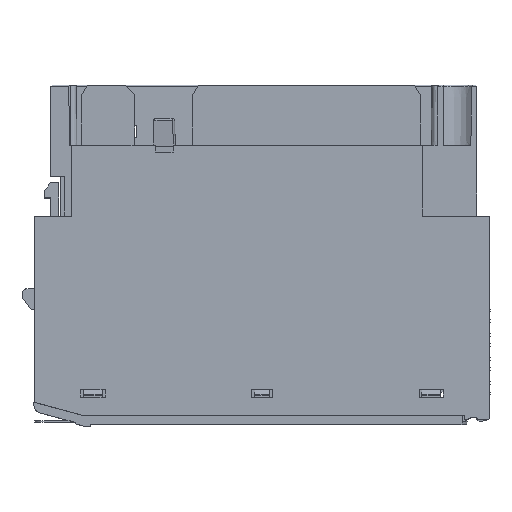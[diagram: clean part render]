
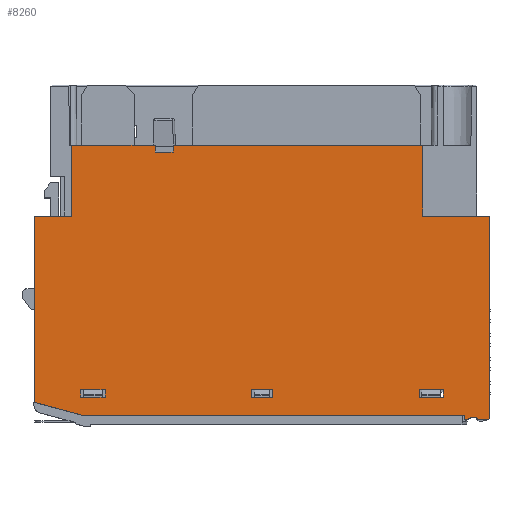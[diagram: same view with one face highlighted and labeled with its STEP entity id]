
A CAD part, top view. The second image highlights one B-rep face of the part: STEP entity #8260.
In plain terms, the highlighted planar face has unit normal (0, 0, 1).
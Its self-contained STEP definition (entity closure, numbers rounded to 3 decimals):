
#220=DIRECTION('',(0.,-1.,0.));
#221=VECTOR('',#220,1.25);
#222=CARTESIAN_POINT('',(-26.,4.25,6.));
#223=LINE('',#222,#221);
#224=DIRECTION('',(1.,0.,0.));
#225=VECTOR('',#224,4.);
#226=CARTESIAN_POINT('',(-30.,4.25,6.));
#227=LINE('',#226,#225);
#228=DIRECTION('',(0.,1.,0.));
#229=VECTOR('',#228,1.25);
#230=CARTESIAN_POINT('',(-30.,3.,6.));
#231=LINE('',#230,#229);
#232=DIRECTION('',(-1.,0.,0.));
#233=VECTOR('',#232,4.);
#234=CARTESIAN_POINT('',(-26.,3.,6.));
#235=LINE('',#234,#233);
#236=DIRECTION('',(0.,-1.,0.));
#237=VECTOR('',#236,1.25);
#238=CARTESIAN_POINT('',(30.,4.25,6.));
#239=LINE('',#238,#237);
#240=DIRECTION('',(1.,0.,0.));
#241=VECTOR('',#240,4.);
#242=CARTESIAN_POINT('',(26.,4.25,6.));
#243=LINE('',#242,#241);
#244=DIRECTION('',(0.,1.,0.));
#245=VECTOR('',#244,1.25);
#246=CARTESIAN_POINT('',(26.,3.,6.));
#247=LINE('',#246,#245);
#248=DIRECTION('',(-1.,0.,0.));
#249=VECTOR('',#248,4.);
#250=CARTESIAN_POINT('',(30.,3.,6.));
#251=LINE('',#250,#249);
#252=DIRECTION('',(0.,-1.,0.));
#253=VECTOR('',#252,1.25);
#254=CARTESIAN_POINT('',(1.75,4.25,6.));
#255=LINE('',#254,#253);
#256=DIRECTION('',(1.,0.,0.));
#257=VECTOR('',#256,3.5);
#258=CARTESIAN_POINT('',(-1.75,4.25,6.));
#259=LINE('',#258,#257);
#260=DIRECTION('',(0.,1.,0.));
#261=VECTOR('',#260,1.25);
#262=CARTESIAN_POINT('',(-1.75,3.,6.));
#263=LINE('',#262,#261);
#264=DIRECTION('',(-1.,0.,0.));
#265=VECTOR('',#264,3.5);
#266=CARTESIAN_POINT('',(1.75,3.,6.));
#267=LINE('',#266,#265);
#268=CARTESIAN_POINT('',(37.25,-0.25,6.));
#269=DIRECTION('',(0.,0.,-1.));
#270=DIRECTION('',(1.,0.,0.));
#271=AXIS2_PLACEMENT_3D('',#268,#269,#270);
#273=DIRECTION('',(-1.,0.,0.));
#274=VECTOR('',#273,1.395);
#275=CARTESIAN_POINT('',(37.25,-0.75,6.));
#276=LINE('',#275,#274);
#277=CARTESIAN_POINT('',(35.02,-1.3,6.));
#278=DIRECTION('',(0.,0.,1.));
#279=DIRECTION('',(0.835,0.55,0.));
#280=AXIS2_PLACEMENT_3D('',#277,#278,#279);
#282=DIRECTION('',(-0.891,-0.454,0.));
#283=VECTOR('',#282,0.751);
#284=CARTESIAN_POINT('',(34.566,-0.409,6.));
#285=LINE('',#284,#283);
#286=DIRECTION('',(-1.,0.,0.));
#287=VECTOR('',#286,0.397);
#288=CARTESIAN_POINT('',(33.897,-0.75,6.));
#289=LINE('',#288,#287);
#290=DIRECTION('',(0.,1.,0.));
#291=VECTOR('',#290,0.75);
#292=CARTESIAN_POINT('',(33.5,-0.75,6.));
#293=LINE('',#292,#291);
#294=DIRECTION('',(1.,0.,0.));
#295=VECTOR('',#294,63.15);
#296=CARTESIAN_POINT('',(-29.65,0.,6.));
#297=LINE('',#296,#295);
#298=DIRECTION('',(0.966,-0.259,0.));
#299=VECTOR('',#298,8.386);
#300=CARTESIAN_POINT('',(-37.75,2.17,6.));
#301=LINE('',#300,#299);
#302=DIRECTION('',(0.,-1.,0.));
#303=VECTOR('',#302,30.83);
#304=CARTESIAN_POINT('',(-37.75,33.,6.));
#305=LINE('',#304,#303);
#306=DIRECTION('',(1.,0.,0.));
#307=VECTOR('',#306,6.24);
#308=CARTESIAN_POINT('',(-37.75,33.,6.));
#309=LINE('',#308,#307);
#310=DIRECTION('',(0.,-1.,0.));
#311=VECTOR('',#310,11.7);
#312=CARTESIAN_POINT('',(-31.51,44.7,6.));
#313=LINE('',#312,#311);
#314=DIRECTION('',(1.,0.,0.));
#315=VECTOR('',#314,13.8);
#316=CARTESIAN_POINT('',(-31.51,44.7,6.));
#317=LINE('',#316,#315);
#318=DIRECTION('',(0.017,-1.,0.));
#319=VECTOR('',#318,1.1);
#320=CARTESIAN_POINT('',(-17.71,44.7,6.));
#321=LINE('',#320,#319);
#322=DIRECTION('',(1.,0.,0.));
#323=VECTOR('',#322,2.962);
#324=CARTESIAN_POINT('',(-17.691,43.6,6.));
#325=LINE('',#324,#323);
#326=DIRECTION('',(-0.017,-1.,0.));
#327=VECTOR('',#326,1.1);
#328=CARTESIAN_POINT('',(-14.71,44.7,6.));
#329=LINE('',#328,#327);
#330=DIRECTION('',(1.,0.,0.));
#331=VECTOR('',#330,41.3);
#332=CARTESIAN_POINT('',(-14.71,44.7,6.));
#333=LINE('',#332,#331);
#334=DIRECTION('',(0.,-1.,0.));
#335=VECTOR('',#334,11.7);
#336=CARTESIAN_POINT('',(26.59,44.7,6.));
#337=LINE('',#336,#335);
#338=DIRECTION('',(1.,0.,0.));
#339=VECTOR('',#338,11.16);
#340=CARTESIAN_POINT('',(26.59,33.,6.));
#341=LINE('',#340,#339);
#1240=DIRECTION('',(0.,1.,0.));
#1241=VECTOR('',#1240,33.25);
#1242=CARTESIAN_POINT('',(37.75,-0.25,6.));
#1243=LINE('',#1242,#1241);
#6260=CARTESIAN_POINT('',(-37.75,2.17,6.));
#6261=CARTESIAN_POINT('',(-29.65,0.,6.));
#6262=VERTEX_POINT('',#6260);
#6263=VERTEX_POINT('',#6261);
#6264=CARTESIAN_POINT('',(-37.75,33.,6.));
#6265=VERTEX_POINT('',#6264);
#6274=CARTESIAN_POINT('',(-31.51,33.,6.));
#6275=VERTEX_POINT('',#6274);
#6279=CARTESIAN_POINT('',(-31.51,44.7,6.));
#6281=VERTEX_POINT('',#6279);
#6294=CARTESIAN_POINT('',(26.59,33.,6.));
#6295=CARTESIAN_POINT('',(37.75,33.,6.));
#6296=VERTEX_POINT('',#6294);
#6297=VERTEX_POINT('',#6295);
#6299=CARTESIAN_POINT('',(26.59,44.7,6.));
#6301=VERTEX_POINT('',#6299);
#6399=CARTESIAN_POINT('',(-26.,4.25,6.));
#6400=CARTESIAN_POINT('',(-26.,3.,6.));
#6401=VERTEX_POINT('',#6399);
#6402=VERTEX_POINT('',#6400);
#6403=CARTESIAN_POINT('',(-30.,3.,6.));
#6404=VERTEX_POINT('',#6403);
#6405=CARTESIAN_POINT('',(-30.,4.25,6.));
#6406=VERTEX_POINT('',#6405);
#6407=CARTESIAN_POINT('',(30.,4.25,6.));
#6408=CARTESIAN_POINT('',(30.,3.,6.));
#6409=VERTEX_POINT('',#6407);
#6410=VERTEX_POINT('',#6408);
#6411=CARTESIAN_POINT('',(26.,3.,6.));
#6412=VERTEX_POINT('',#6411);
#6413=CARTESIAN_POINT('',(26.,4.25,6.));
#6414=VERTEX_POINT('',#6413);
#6509=CARTESIAN_POINT('',(33.5,0.,6.));
#6510=VERTEX_POINT('',#6509);
#7158=CARTESIAN_POINT('',(37.75,-0.25,6.));
#7159=CARTESIAN_POINT('',(37.25,-0.75,6.));
#7160=VERTEX_POINT('',#7158);
#7161=VERTEX_POINT('',#7159);
#7162=CARTESIAN_POINT('',(35.855,-0.75,6.));
#7163=VERTEX_POINT('',#7162);
#7164=CARTESIAN_POINT('',(34.566,-0.409,6.));
#7165=VERTEX_POINT('',#7164);
#7166=CARTESIAN_POINT('',(33.897,-0.75,6.));
#7167=VERTEX_POINT('',#7166);
#7168=CARTESIAN_POINT('',(33.5,-0.75,6.));
#7169=VERTEX_POINT('',#7168);
#7362=CARTESIAN_POINT('',(-17.691,43.6,6.));
#7363=CARTESIAN_POINT('',(-14.729,43.6,6.));
#7364=VERTEX_POINT('',#7362);
#7365=VERTEX_POINT('',#7363);
#7366=CARTESIAN_POINT('',(-14.71,44.7,6.));
#7367=VERTEX_POINT('',#7366);
#7368=CARTESIAN_POINT('',(-17.71,44.7,6.));
#7369=VERTEX_POINT('',#7368);
#7384=CARTESIAN_POINT('',(1.75,4.25,6.));
#7385=CARTESIAN_POINT('',(1.75,3.,6.));
#7386=VERTEX_POINT('',#7384);
#7387=VERTEX_POINT('',#7385);
#7388=CARTESIAN_POINT('',(-1.75,3.,6.));
#7389=VERTEX_POINT('',#7388);
#7390=CARTESIAN_POINT('',(-1.75,4.25,6.));
#7391=VERTEX_POINT('',#7390);
#8186=CARTESIAN_POINT('',(0.,0.,6.));
#8187=DIRECTION('',(0.,0.,1.));
#8188=DIRECTION('',(1.,0.,0.));
#8189=AXIS2_PLACEMENT_3D('',#8186,#8187,#8188);
#8190=PLANE('',#8189);
#8192=ORIENTED_EDGE('',*,*,#8191,.F.);
#8194=ORIENTED_EDGE('',*,*,#8193,.T.);
#8196=ORIENTED_EDGE('',*,*,#8195,.T.);
#8198=ORIENTED_EDGE('',*,*,#8197,.T.);
#8200=ORIENTED_EDGE('',*,*,#8199,.T.);
#8202=ORIENTED_EDGE('',*,*,#8201,.T.);
#8204=ORIENTED_EDGE('',*,*,#8203,.T.);
#8206=ORIENTED_EDGE('',*,*,#8205,.F.);
#8208=ORIENTED_EDGE('',*,*,#8207,.F.);
#8210=ORIENTED_EDGE('',*,*,#8209,.F.);
#8212=ORIENTED_EDGE('',*,*,#8211,.T.);
#8214=ORIENTED_EDGE('',*,*,#8213,.F.);
#8216=ORIENTED_EDGE('',*,*,#8215,.T.);
#8218=ORIENTED_EDGE('',*,*,#8217,.T.);
#8220=ORIENTED_EDGE('',*,*,#8219,.T.);
#8222=ORIENTED_EDGE('',*,*,#8221,.F.);
#8224=ORIENTED_EDGE('',*,*,#8223,.T.);
#8226=ORIENTED_EDGE('',*,*,#8225,.T.);
#8228=ORIENTED_EDGE('',*,*,#8227,.T.);
#8229=EDGE_LOOP('',(#8192,#8194,#8196,#8198,#8200,#8202,#8204,#8206,#8208,#8210,
#8212,#8214,#8216,#8218,#8220,#8222,#8224,#8226,#8228));
#8230=FACE_OUTER_BOUND('',#8229,.F.);
#8232=ORIENTED_EDGE('',*,*,#8231,.F.);
#8234=ORIENTED_EDGE('',*,*,#8233,.F.);
#8236=ORIENTED_EDGE('',*,*,#8235,.F.);
#8238=ORIENTED_EDGE('',*,*,#8237,.F.);
#8239=EDGE_LOOP('',(#8232,#8234,#8236,#8238));
#8240=FACE_BOUND('',#8239,.F.);
#8242=ORIENTED_EDGE('',*,*,#8241,.F.);
#8244=ORIENTED_EDGE('',*,*,#8243,.F.);
#8246=ORIENTED_EDGE('',*,*,#8245,.F.);
#8248=ORIENTED_EDGE('',*,*,#8247,.F.);
#8249=EDGE_LOOP('',(#8242,#8244,#8246,#8248));
#8250=FACE_BOUND('',#8249,.F.);
#8251=ORIENTED_EDGE('',*,*,#8160,.F.);
#8253=ORIENTED_EDGE('',*,*,#8252,.F.);
#8255=ORIENTED_EDGE('',*,*,#8254,.F.);
#8257=ORIENTED_EDGE('',*,*,#8256,.F.);
#8258=EDGE_LOOP('',(#8251,#8253,#8255,#8257));
#8259=FACE_BOUND('',#8258,.F.);
#8260=ADVANCED_FACE('',(#8230,#8240,#8250,#8259),#8190,.T.);
#272=CIRCLE('',#271,0.5);
#281=CIRCLE('',#280,1.);
#8160=EDGE_CURVE('',#6401,#6402,#223,.T.);
#8191=EDGE_CURVE('',#7160,#6297,#1243,.T.);
#8193=EDGE_CURVE('',#7160,#7161,#272,.T.);
#8195=EDGE_CURVE('',#7161,#7163,#276,.T.);
#8197=EDGE_CURVE('',#7163,#7165,#281,.T.);
#8199=EDGE_CURVE('',#7165,#7167,#285,.T.);
#8201=EDGE_CURVE('',#7167,#7169,#289,.T.);
#8203=EDGE_CURVE('',#7169,#6510,#293,.T.);
#8205=EDGE_CURVE('',#6263,#6510,#297,.T.);
#8207=EDGE_CURVE('',#6262,#6263,#301,.T.);
#8209=EDGE_CURVE('',#6265,#6262,#305,.T.);
#8211=EDGE_CURVE('',#6265,#6275,#309,.T.);
#8213=EDGE_CURVE('',#6281,#6275,#313,.T.);
#8215=EDGE_CURVE('',#6281,#7369,#317,.T.);
#8217=EDGE_CURVE('',#7369,#7364,#321,.T.);
#8219=EDGE_CURVE('',#7364,#7365,#325,.T.);
#8221=EDGE_CURVE('',#7367,#7365,#329,.T.);
#8223=EDGE_CURVE('',#7367,#6301,#333,.T.);
#8225=EDGE_CURVE('',#6301,#6296,#337,.T.);
#8227=EDGE_CURVE('',#6296,#6297,#341,.T.);
#8231=EDGE_CURVE('',#6409,#6410,#239,.T.);
#8233=EDGE_CURVE('',#6414,#6409,#243,.T.);
#8235=EDGE_CURVE('',#6412,#6414,#247,.T.);
#8237=EDGE_CURVE('',#6410,#6412,#251,.T.);
#8241=EDGE_CURVE('',#7386,#7387,#255,.T.);
#8243=EDGE_CURVE('',#7391,#7386,#259,.T.);
#8245=EDGE_CURVE('',#7389,#7391,#263,.T.);
#8247=EDGE_CURVE('',#7387,#7389,#267,.T.);
#8252=EDGE_CURVE('',#6406,#6401,#227,.T.);
#8254=EDGE_CURVE('',#6404,#6406,#231,.T.);
#8256=EDGE_CURVE('',#6402,#6404,#235,.T.);
